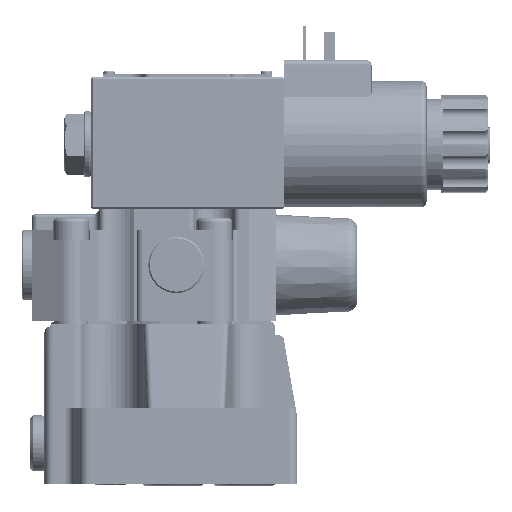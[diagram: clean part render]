
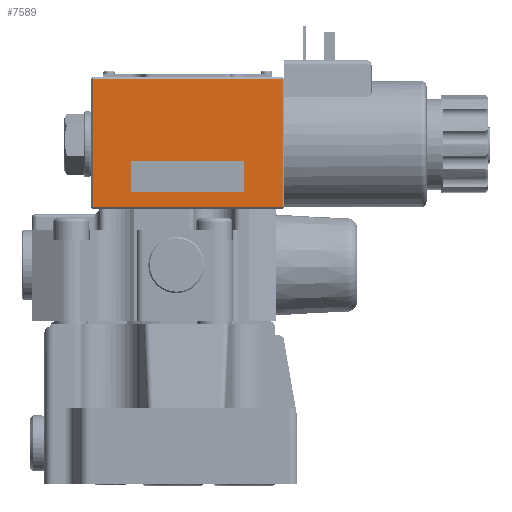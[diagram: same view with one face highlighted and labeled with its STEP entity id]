
A CAD part, front view. The second image highlights one B-rep face of the part: STEP entity #7589.
In plain terms, the highlighted planar face has unit normal (0, -1, 0).
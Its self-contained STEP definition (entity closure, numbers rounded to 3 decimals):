
#3668=PLANE('',#22442);
#4869=LINE('',#151700,#6295);
#4870=LINE('',#151703,#6296);
#4871=LINE('',#151705,#6297);
#4872=LINE('',#151707,#6298);
#4873=LINE('',#151708,#6299);
#4874=LINE('',#151711,#6300);
#4875=LINE('',#151713,#6301);
#4876=LINE('',#151715,#6302);
#6295=VECTOR('',#26783,1.);
#6296=VECTOR('',#26784,1.);
#6297=VECTOR('',#26785,1.);
#6298=VECTOR('',#26786,1.);
#6299=VECTOR('',#26787,1.);
#6300=VECTOR('',#26788,1.);
#6301=VECTOR('',#26789,1.);
#6302=VECTOR('',#26790,1.);
#7589=ADVANCED_FACE('',(#8815,#8816),#3668,.T.);
#8815=FACE_BOUND('',#10089,.T.);
#8816=FACE_BOUND('',#10090,.T.);
#10089=EDGE_LOOP('',(#14340,#14341,#14342,#14343));
#10090=EDGE_LOOP('',(#14344,#14345,#14346,#14347));
#14340=ORIENTED_EDGE('',*,*,#19594,.T.);
#14341=ORIENTED_EDGE('',*,*,#19595,.T.);
#14342=ORIENTED_EDGE('',*,*,#19596,.T.);
#14343=ORIENTED_EDGE('',*,*,#19597,.T.);
#14344=ORIENTED_EDGE('',*,*,#19598,.F.);
#14345=ORIENTED_EDGE('',*,*,#19599,.F.);
#14346=ORIENTED_EDGE('',*,*,#19600,.F.);
#14347=ORIENTED_EDGE('',*,*,#19601,.F.);
#17195=VERTEX_POINT('',#151701);
#17196=VERTEX_POINT('',#151702);
#17197=VERTEX_POINT('',#151704);
#17198=VERTEX_POINT('',#151706);
#17199=VERTEX_POINT('',#151709);
#17200=VERTEX_POINT('',#151710);
#17201=VERTEX_POINT('',#151712);
#17202=VERTEX_POINT('',#151714);
#19594=EDGE_CURVE('',#17195,#17196,#4869,.T.);
#19595=EDGE_CURVE('',#17196,#17197,#4870,.T.);
#19596=EDGE_CURVE('',#17197,#17198,#4871,.T.);
#19597=EDGE_CURVE('',#17198,#17195,#4872,.T.);
#19598=EDGE_CURVE('',#17199,#17200,#4873,.T.);
#19599=EDGE_CURVE('',#17201,#17199,#4874,.T.);
#19600=EDGE_CURVE('',#17202,#17201,#4875,.T.);
#19601=EDGE_CURVE('',#17200,#17202,#4876,.T.);
#22442=AXIS2_PLACEMENT_3D('',#151716,#26791,#26792);
#26783=DIRECTION('',(0.,0.,-1.));
#26784=DIRECTION('',(1.,0.,0.));
#26785=DIRECTION('',(0.,0.,1.));
#26786=DIRECTION('',(-1.,0.,0.));
#26787=DIRECTION('',(-1.,0.,0.));
#26788=DIRECTION('',(0.,0.,1.));
#26789=DIRECTION('',(1.,0.,0.));
#26790=DIRECTION('',(0.,0.,-1.));
#26791=DIRECTION('',(0.,-1.,0.));
#26792=DIRECTION('',(0.,0.,1.));
#151700=CARTESIAN_POINT('',(-724.56,-79.432,130.));
#151701=CARTESIAN_POINT('',(-724.56,-79.432,176.3));
#151702=CARTESIAN_POINT('',(-724.56,-79.432,130.7));
#151703=CARTESIAN_POINT('',(-690.76,-79.432,130.7));
#151704=CARTESIAN_POINT('',(-656.96,-79.432,130.7));
#151705=CARTESIAN_POINT('',(-656.96,-79.432,130.));
#151706=CARTESIAN_POINT('',(-656.96,-79.432,176.3));
#151707=CARTESIAN_POINT('',(-690.76,-79.432,176.3));
#151708=CARTESIAN_POINT('',(-670.76,-79.432,147.));
#151709=CARTESIAN_POINT('',(-670.76,-79.432,147.));
#151710=CARTESIAN_POINT('',(-710.76,-79.432,147.));
#151711=CARTESIAN_POINT('',(-670.76,-79.432,136.));
#151712=CARTESIAN_POINT('',(-670.76,-79.432,136.));
#151713=CARTESIAN_POINT('',(-710.76,-79.432,136.));
#151714=CARTESIAN_POINT('',(-710.76,-79.432,136.));
#151715=CARTESIAN_POINT('',(-710.76,-79.432,147.));
#151716=CARTESIAN_POINT('',(-690.76,-79.432,130.));
